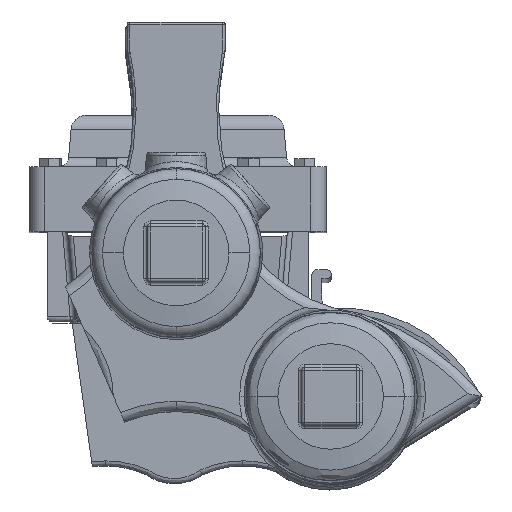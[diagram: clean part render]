
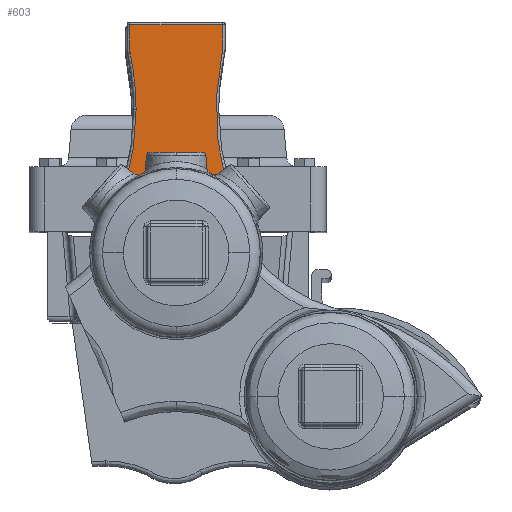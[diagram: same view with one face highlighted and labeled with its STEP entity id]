
A CAD part, top view. The second image highlights one B-rep face of the part: STEP entity #603.
In plain terms, the highlighted planar face has unit normal (0, 0, 1) as drawn and (0, 0, -1) by its records, which use the part's own axes.
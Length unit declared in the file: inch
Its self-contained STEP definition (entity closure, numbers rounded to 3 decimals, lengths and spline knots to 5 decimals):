
#39 = DIRECTION ( 'NONE',  ( 1., 0., 0. ) ) ;
#99 = EDGE_CURVE ( 'NONE', #23511, #14468, #2030, .T. ) ;
#603 = ADVANCED_FACE ( 'NONE', ( #8585, #10180 ), #9754, .F. ) ;
#656 = VECTOR ( 'NONE', #13650, 39.37008 ) ;
#1540 = CARTESIAN_POINT ( 'NONE',  ( -1.38, 4.475, -1.825 ) ) ;
#1873 = DIRECTION ( 'NONE',  ( 1., 0., 0. ) ) ;
#1986 = CIRCLE ( 'NONE', #18422, 5.3 ) ;
#2030 = CIRCLE ( 'NONE', #30902, 0.45 ) ;
#2044 = EDGE_CURVE ( 'NONE', #14982, #16163, #30243, .T. ) ;
#2404 = EDGE_CURVE ( 'NONE', #18704, #14982, #19788, .T. ) ;
#2420 = DIRECTION ( 'NONE',  ( 0., 0., 1. ) ) ;
#2702 = CARTESIAN_POINT ( 'NONE',  ( 0., 4.475, -1.825 ) ) ;
#3613 = CIRCLE ( 'NONE', #14711, 1.38 ) ;
#3890 = CARTESIAN_POINT ( 'NONE',  ( 0.45, 0.50467, -1.825 ) ) ;
#3917 = EDGE_CURVE ( 'NONE', #31331, #23373, #24749, .T. ) ;
#4256 = CARTESIAN_POINT ( 'NONE',  ( 1.38, 4.475, -1.825 ) ) ;
#4572 = VERTEX_POINT ( 'NONE', #1540 ) ;
#4640 = CIRCLE ( 'NONE', #20017, 5.3 ) ;
#5201 = DIRECTION ( 'NONE',  ( 1., 0., 0. ) ) ;
#6020 = ORIENTED_EDGE ( 'NONE', *, *, #24015, .T. ) ;
#6126 = LINE ( 'NONE', #23622, #11963 ) ;
#6337 = ORIENTED_EDGE ( 'NONE', *, *, #27454, .T. ) ;
#6378 = DIRECTION ( 'NONE',  ( 1., 0., 0. ) ) ;
#6484 = LINE ( 'NONE', #26027, #656 ) ;
#7063 = CARTESIAN_POINT ( 'NONE',  ( 0., 4.475, -1.825 ) ) ;
#7283 = DIRECTION ( 'NONE',  ( 0., 0., 1. ) ) ;
#7443 = VERTEX_POINT ( 'NONE', #9867 ) ;
#7790 = DIRECTION ( 'NONE',  ( 0., 0., -1. ) ) ;
#8531 = EDGE_LOOP ( 'NONE', ( #10437, #8822 ) ) ;
#8585 = FACE_OUTER_BOUND ( 'NONE', #10922, .T. ) ;
#8676 = AXIS2_PLACEMENT_3D ( 'NONE', #9653, #27036, #12162 ) ;
#8822 = ORIENTED_EDGE ( 'NONE', *, *, #20886, .F. ) ;
#9151 = AXIS2_PLACEMENT_3D ( 'NONE', #11288, #7283, #1873 ) ;
#9158 = CIRCLE ( 'NONE', #27509, 0.775 ) ;
#9299 = DIRECTION ( 'NONE',  ( 0., 0., 1. ) ) ;
#9552 = DIRECTION ( 'NONE',  ( 1., 0., 0. ) ) ;
#9653 = CARTESIAN_POINT ( 'NONE',  ( 0., 4.475, -1.825 ) ) ;
#9656 = CARTESIAN_POINT ( 'NONE',  ( -0.775, 1.69709, -1.825 ) ) ;
#9754 = PLANE ( 'NONE',  #9151 ) ;
#9846 = DIRECTION ( 'NONE',  ( 0., 0., -1. ) ) ;
#9867 = CARTESIAN_POINT ( 'NONE',  ( -0.775, 4.475, -1.825 ) ) ;
#10023 = CARTESIAN_POINT ( 'NONE',  ( -1.25501, 3.90112, -1.825 ) ) ;
#10180 = FACE_BOUND ( 'NONE', #8531, .T. ) ;
#10437 = ORIENTED_EDGE ( 'NONE', *, *, #24486, .F. ) ;
#10922 = EDGE_LOOP ( 'NONE', ( #16983, #16054, #6337, #27483, #26798, #15080, #14108, #6020, #21006, #15753, #12873 ) ) ;
#11245 = VECTOR ( 'NONE', #11323, 39.37008 ) ;
#11288 = CARTESIAN_POINT ( 'NONE',  ( 0.95, 0.5, -1.825 ) ) ;
#11323 = DIRECTION ( 'NONE',  ( 0., -1., 0. ) ) ;
#11620 = VERTEX_POINT ( 'NONE', #10023 ) ;
#11904 = DIRECTION ( 'NONE',  ( 0., 1., 0. ) ) ;
#11963 = VECTOR ( 'NONE', #11904, 39.37008 ) ;
#12162 = DIRECTION ( 'NONE',  ( 1., 0., 0. ) ) ;
#12873 = ORIENTED_EDGE ( 'NONE', *, *, #21756, .T. ) ;
#13097 = CARTESIAN_POINT ( 'NONE',  ( -0.45, 0.50467, -1.825 ) ) ;
#13650 = DIRECTION ( 'NONE',  ( -1., 0., 0. ) ) ;
#13741 = CARTESIAN_POINT ( 'NONE',  ( 1.25501, 3.90112, -1.825 ) ) ;
#14108 = ORIENTED_EDGE ( 'NONE', *, *, #3917, .T. ) ;
#14468 = VERTEX_POINT ( 'NONE', #23584 ) ;
#14711 = AXIS2_PLACEMENT_3D ( 'NONE', #2702, #20075, #5201 ) ;
#14873 = DIRECTION ( 'NONE',  ( 0., 0., 1. ) ) ;
#14982 = VERTEX_POINT ( 'NONE', #18575 ) ;
#15080 = ORIENTED_EDGE ( 'NONE', *, *, #31685, .T. ) ;
#15753 = ORIENTED_EDGE ( 'NONE', *, *, #2044, .T. ) ;
#16054 = ORIENTED_EDGE ( 'NONE', *, *, #99, .T. ) ;
#16163 = VERTEX_POINT ( 'NONE', #22946 ) ;
#16567 = CIRCLE ( 'NONE', #19215, 0.775 ) ;
#16983 = ORIENTED_EDGE ( 'NONE', *, *, #28597, .T. ) ;
#17054 = CARTESIAN_POINT ( 'NONE',  ( 0.89022, 0.59799, -1.825 ) ) ;
#17262 = CARTESIAN_POINT ( 'NONE',  ( 6.075, 1.69709, -1.825 ) ) ;
#17679 = VERTEX_POINT ( 'NONE', #28725 ) ;
#18351 = AXIS2_PLACEMENT_3D ( 'NONE', #7063, #24404, #9552 ) ;
#18422 = AXIS2_PLACEMENT_3D ( 'NONE', #29713, #14873, #39 ) ;
#18575 = CARTESIAN_POINT ( 'NONE',  ( 0.8979, 0.54806, -1.825 ) ) ;
#18704 = VERTEX_POINT ( 'NONE', #17054 ) ;
#19215 = AXIS2_PLACEMENT_3D ( 'NONE', #24712, #9846, #27220 ) ;
#19223 = DIRECTION ( 'NONE',  ( 1., 0., 0. ) ) ;
#19788 = CIRCLE ( 'NONE', #20403, 0.45 ) ;
#19803 = DIRECTION ( 'NONE',  ( 1., 0., 0. ) ) ;
#19957 = EDGE_CURVE ( 'NONE', #22980, #11620, #4640, .T. ) ;
#20017 = AXIS2_PLACEMENT_3D ( 'NONE', #24161, #9299, #26675 ) ;
#20075 = DIRECTION ( 'NONE',  ( 0., 0., -1. ) ) ;
#20403 = AXIS2_PLACEMENT_3D ( 'NONE', #3890, #21259, #6378 ) ;
#20886 = EDGE_CURVE ( 'NONE', #17679, #7443, #16567, .T. ) ;
#21006 = ORIENTED_EDGE ( 'NONE', *, *, #2404, .T. ) ;
#21259 = DIRECTION ( 'NONE',  ( 0., 0., -1. ) ) ;
#21756 = EDGE_CURVE ( 'NONE', #16163, #23750, #6484, .T. ) ;
#22084 = AXIS2_PLACEMENT_3D ( 'NONE', #17262, #2420, #19803 ) ;
#22650 = CARTESIAN_POINT ( 'NONE',  ( 0., 4.475, -1.825 ) ) ;
#22946 = CARTESIAN_POINT ( 'NONE',  ( 0.8979, 0.05, -1.825 ) ) ;
#22980 = VERTEX_POINT ( 'NONE', #9656 ) ;
#23373 = VERTEX_POINT ( 'NONE', #13741 ) ;
#23511 = VERTEX_POINT ( 'NONE', #24589 ) ;
#23584 = CARTESIAN_POINT ( 'NONE',  ( -0.89022, 0.59799, -1.825 ) ) ;
#23622 = CARTESIAN_POINT ( 'NONE',  ( -0.8979, 0.5, -1.825 ) ) ;
#23692 = CARTESIAN_POINT ( 'NONE',  ( 0.8979, 0.5, -1.825 ) ) ;
#23750 = VERTEX_POINT ( 'NONE', #26081 ) ;
#24015 = EDGE_CURVE ( 'NONE', #23373, #18704, #27063, .T. ) ;
#24161 = CARTESIAN_POINT ( 'NONE',  ( -6.075, 1.69709, -1.825 ) ) ;
#24404 = DIRECTION ( 'NONE',  ( 0., 0., -1. ) ) ;
#24486 = EDGE_CURVE ( 'NONE', #7443, #17679, #9158, .T. ) ;
#24589 = CARTESIAN_POINT ( 'NONE',  ( -0.8979, 0.54806, -1.825 ) ) ;
#24712 = CARTESIAN_POINT ( 'NONE',  ( 0., 4.475, -1.825 ) ) ;
#24749 = CIRCLE ( 'NONE', #18351, 1.38 ) ;
#25146 = DIRECTION ( 'NONE',  ( -1., 0., 0. ) ) ;
#26027 = CARTESIAN_POINT ( 'NONE',  ( 0.95, 0.05, -1.825 ) ) ;
#26081 = CARTESIAN_POINT ( 'NONE',  ( -0.8979, 0.05, -1.825 ) ) ;
#26675 = DIRECTION ( 'NONE',  ( 1., 0., 0. ) ) ;
#26798 = ORIENTED_EDGE ( 'NONE', *, *, #31496, .T. ) ;
#27036 = DIRECTION ( 'NONE',  ( 0., 0., -1. ) ) ;
#27063 = CIRCLE ( 'NONE', #22084, 5.3 ) ;
#27220 = DIRECTION ( 'NONE',  ( -1., 0., 0. ) ) ;
#27454 = EDGE_CURVE ( 'NONE', #14468, #22980, #1986, .T. ) ;
#27483 = ORIENTED_EDGE ( 'NONE', *, *, #19957, .T. ) ;
#27509 = AXIS2_PLACEMENT_3D ( 'NONE', #22650, #7790, #25146 ) ;
#27961 = DIRECTION ( 'NONE',  ( 0., 0., -1. ) ) ;
#28597 = EDGE_CURVE ( 'NONE', #23750, #23511, #6126, .T. ) ;
#28725 = CARTESIAN_POINT ( 'NONE',  ( 0.775, 4.475, -1.825 ) ) ;
#29226 = CIRCLE ( 'NONE', #8676, 1.38 ) ;
#29713 = CARTESIAN_POINT ( 'NONE',  ( -6.075, 1.69709, -1.825 ) ) ;
#30243 = LINE ( 'NONE', #23692, #11245 ) ;
#30902 = AXIS2_PLACEMENT_3D ( 'NONE', #13097, #27961, #19223 ) ;
#31331 = VERTEX_POINT ( 'NONE', #4256 ) ;
#31496 = EDGE_CURVE ( 'NONE', #11620, #4572, #29226, .T. ) ;
#31685 = EDGE_CURVE ( 'NONE', #4572, #31331, #3613, .T. ) ;
